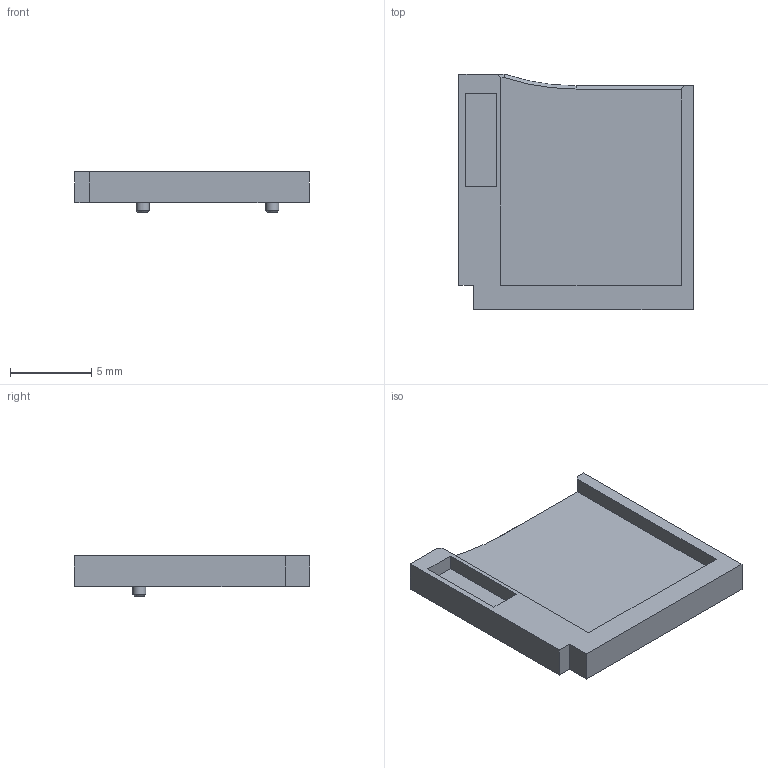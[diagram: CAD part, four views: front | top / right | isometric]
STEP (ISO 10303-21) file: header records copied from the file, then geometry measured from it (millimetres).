
FILE_DESCRIPTION(/* description */ ('STEP AP242 Edition 2','CAx-IF Rec.Pracs.---Representation and Presentation of Product Manufacturing Information (PMI)---4.0---2014-10-13','CAx-IF Rec.Pracs.---3D Tessellated Geometry---0.4---2014-09-14','2;1','CAx-IF Rec.Pracs.---User Defined Attributes---1.5---2016-08-15'),/* implementation_level */ '2;1');
FILE_NAME(/* name */ 'Assembly 1 - TF-SMD_TF-15-15~TF-SMD_TF-15-15~nxQB (6)',/* time_stamp */ '2026-04-02T09:55:30Z',/* author */ (''),/* organization */ (''),/* preprocessor_version */ 'ST-DEVELOPER v20',/* originating_system */ 'ONSHAPE BY PTC INC, 1.212',/* authorisation */ ' ');
FILE_SCHEMA (('AP242_MANAGED_MODEL_BASED_3D_ENGINEERING_MIM_LF { 1 0 10303 442 3 1 4 }'));
Length unit declared in the file: metre
Products named in the file (1): TF-SMD_TF-15-15~TF-SMD_TF-15-15~nxQB
Bounding box: 14.45 x 14.5 x 2.5 mm (x, y, z)
Volume: 226.8 mm3; surface area: 596.3 mm2
Topology: 1 solids, 1 shells, 70 faces, 165 edges, 108 vertices
Faces by surface type: plane 64, cone 3, cylinder 3
Full cylindrical faces by diameter (mm): 0.8 x2
Entity records: 2464 total; most frequent: CARTESIAN_POINT 343, ORIENTED_EDGE 322, DIRECTION 311, EDGE_CURVE 161, LINE 151, VECTOR 151, VERTEX_POINT 108, EDGE_LOOP 85
